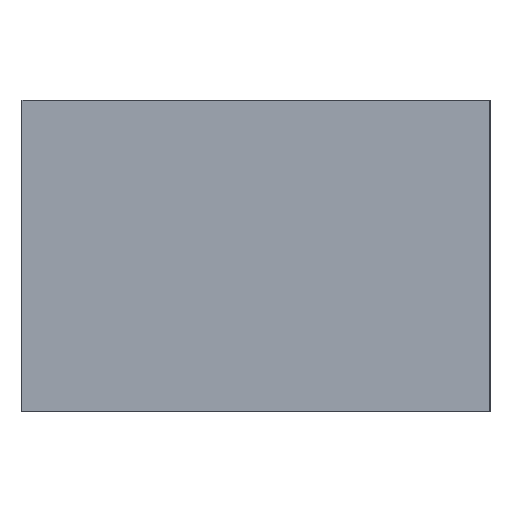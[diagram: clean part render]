
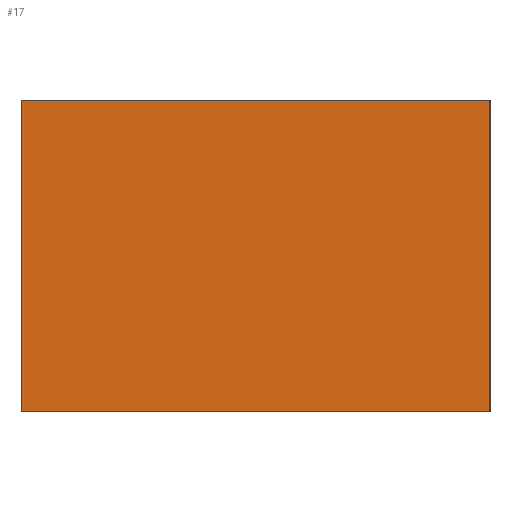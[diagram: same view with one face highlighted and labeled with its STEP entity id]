
A CAD part, left-side view. The second image highlights one B-rep face of the part: STEP entity #17.
In plain terms, the highlighted planar face has unit normal (-1, 0, 0).
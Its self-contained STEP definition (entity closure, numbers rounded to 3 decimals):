
#17 = ADVANCED_FACE('',(#18),#32,.F.);
#18 = FACE_BOUND('',#19,.F.);
#19 = EDGE_LOOP('',(#20,#55,#83,#111));
#20 = ORIENTED_EDGE('',*,*,#21,.F.);
#21 = EDGE_CURVE('',#22,#24,#26,.T.);
#22 = VERTEX_POINT('',#23);
#23 = CARTESIAN_POINT('',(-95.,-9.,0.));
#24 = VERTEX_POINT('',#25);
#25 = CARTESIAN_POINT('',(-95.,-9.,12.));
#26 = SURFACE_CURVE('',#27,(#31,#43),.PCURVE_S1.);
#27 = LINE('',#28,#29);
#28 = CARTESIAN_POINT('',(-95.,-9.,0.));
#29 = VECTOR('',#30,1.);
#30 = DIRECTION('',(0.,0.,1.));
#31 = PCURVE('',#32,#37);
#32 = PLANE('',#33);
#33 = AXIS2_PLACEMENT_3D('',#34,#35,#36);
#34 = CARTESIAN_POINT('',(-95.,-9.,0.));
#35 = DIRECTION('',(1.,0.,-0.));
#36 = DIRECTION('',(0.,0.,1.));
#37 = DEFINITIONAL_REPRESENTATION('',(#38),#42);
#38 = LINE('',#39,#40);
#39 = CARTESIAN_POINT('',(0.,0.));
#40 = VECTOR('',#41,1.);
#41 = DIRECTION('',(1.,0.));
#42 = ( GEOMETRIC_REPRESENTATION_CONTEXT(2) 
PARAMETRIC_REPRESENTATION_CONTEXT() REPRESENTATION_CONTEXT('2D SPACE',''
  ) );
#43 = PCURVE('',#44,#49);
#44 = PLANE('',#45);
#45 = AXIS2_PLACEMENT_3D('',#46,#47,#48);
#46 = CARTESIAN_POINT('',(-95.,-9.,0.));
#47 = DIRECTION('',(-0.,1.,0.));
#48 = DIRECTION('',(0.,0.,1.));
#49 = DEFINITIONAL_REPRESENTATION('',(#50),#54);
#50 = LINE('',#51,#52);
#51 = CARTESIAN_POINT('',(0.,0.));
#52 = VECTOR('',#53,1.);
#53 = DIRECTION('',(1.,0.));
#54 = ( GEOMETRIC_REPRESENTATION_CONTEXT(2) 
PARAMETRIC_REPRESENTATION_CONTEXT() REPRESENTATION_CONTEXT('2D SPACE',''
  ) );
#55 = ORIENTED_EDGE('',*,*,#56,.T.);
#56 = EDGE_CURVE('',#22,#57,#59,.T.);
#57 = VERTEX_POINT('',#58);
#58 = CARTESIAN_POINT('',(-95.,9.,0.));
#59 = SURFACE_CURVE('',#60,(#64,#71),.PCURVE_S1.);
#60 = LINE('',#61,#62);
#61 = CARTESIAN_POINT('',(-95.,-9.,0.));
#62 = VECTOR('',#63,1.);
#63 = DIRECTION('',(-0.,1.,0.));
#64 = PCURVE('',#32,#65);
#65 = DEFINITIONAL_REPRESENTATION('',(#66),#70);
#66 = LINE('',#67,#68);
#67 = CARTESIAN_POINT('',(0.,0.));
#68 = VECTOR('',#69,1.);
#69 = DIRECTION('',(0.,-1.));
#70 = ( GEOMETRIC_REPRESENTATION_CONTEXT(2) 
PARAMETRIC_REPRESENTATION_CONTEXT() REPRESENTATION_CONTEXT('2D SPACE',''
  ) );
#71 = PCURVE('',#72,#77);
#72 = PLANE('',#73);
#73 = AXIS2_PLACEMENT_3D('',#74,#75,#76);
#74 = CARTESIAN_POINT('',(-95.,-9.,0.));
#75 = DIRECTION('',(0.,0.,1.));
#76 = DIRECTION('',(1.,0.,-0.));
#77 = DEFINITIONAL_REPRESENTATION('',(#78),#82);
#78 = LINE('',#79,#80);
#79 = CARTESIAN_POINT('',(0.,0.));
#80 = VECTOR('',#81,1.);
#81 = DIRECTION('',(0.,1.));
#82 = ( GEOMETRIC_REPRESENTATION_CONTEXT(2) 
PARAMETRIC_REPRESENTATION_CONTEXT() REPRESENTATION_CONTEXT('2D SPACE',''
  ) );
#83 = ORIENTED_EDGE('',*,*,#84,.T.);
#84 = EDGE_CURVE('',#57,#85,#87,.T.);
#85 = VERTEX_POINT('',#86);
#86 = CARTESIAN_POINT('',(-95.,9.,12.));
#87 = SURFACE_CURVE('',#88,(#92,#99),.PCURVE_S1.);
#88 = LINE('',#89,#90);
#89 = CARTESIAN_POINT('',(-95.,9.,0.));
#90 = VECTOR('',#91,1.);
#91 = DIRECTION('',(0.,0.,1.));
#92 = PCURVE('',#32,#93);
#93 = DEFINITIONAL_REPRESENTATION('',(#94),#98);
#94 = LINE('',#95,#96);
#95 = CARTESIAN_POINT('',(0.,-18.));
#96 = VECTOR('',#97,1.);
#97 = DIRECTION('',(1.,0.));
#98 = ( GEOMETRIC_REPRESENTATION_CONTEXT(2) 
PARAMETRIC_REPRESENTATION_CONTEXT() REPRESENTATION_CONTEXT('2D SPACE',''
  ) );
#99 = PCURVE('',#100,#105);
#100 = PLANE('',#101);
#101 = AXIS2_PLACEMENT_3D('',#102,#103,#104);
#102 = CARTESIAN_POINT('',(-95.,9.,0.));
#103 = DIRECTION('',(-0.,1.,0.));
#104 = DIRECTION('',(0.,0.,1.));
#105 = DEFINITIONAL_REPRESENTATION('',(#106),#110);
#106 = LINE('',#107,#108);
#107 = CARTESIAN_POINT('',(0.,0.));
#108 = VECTOR('',#109,1.);
#109 = DIRECTION('',(1.,0.));
#110 = ( GEOMETRIC_REPRESENTATION_CONTEXT(2) 
PARAMETRIC_REPRESENTATION_CONTEXT() REPRESENTATION_CONTEXT('2D SPACE',''
  ) );
#111 = ORIENTED_EDGE('',*,*,#112,.F.);
#112 = EDGE_CURVE('',#24,#85,#113,.T.);
#113 = SURFACE_CURVE('',#114,(#118,#125),.PCURVE_S1.);
#114 = LINE('',#115,#116);
#115 = CARTESIAN_POINT('',(-95.,-9.,12.));
#116 = VECTOR('',#117,1.);
#117 = DIRECTION('',(-0.,1.,0.));
#118 = PCURVE('',#32,#119);
#119 = DEFINITIONAL_REPRESENTATION('',(#120),#124);
#120 = LINE('',#121,#122);
#121 = CARTESIAN_POINT('',(12.,0.));
#122 = VECTOR('',#123,1.);
#123 = DIRECTION('',(0.,-1.));
#124 = ( GEOMETRIC_REPRESENTATION_CONTEXT(2) 
PARAMETRIC_REPRESENTATION_CONTEXT() REPRESENTATION_CONTEXT('2D SPACE',''
  ) );
#125 = PCURVE('',#126,#131);
#126 = PLANE('',#127);
#127 = AXIS2_PLACEMENT_3D('',#128,#129,#130);
#128 = CARTESIAN_POINT('',(-95.,-9.,12.));
#129 = DIRECTION('',(0.,0.,1.));
#130 = DIRECTION('',(1.,0.,-0.));
#131 = DEFINITIONAL_REPRESENTATION('',(#132),#136);
#132 = LINE('',#133,#134);
#133 = CARTESIAN_POINT('',(0.,0.));
#134 = VECTOR('',#135,1.);
#135 = DIRECTION('',(0.,1.));
#136 = ( GEOMETRIC_REPRESENTATION_CONTEXT(2) 
PARAMETRIC_REPRESENTATION_CONTEXT() REPRESENTATION_CONTEXT('2D SPACE',''
  ) );
